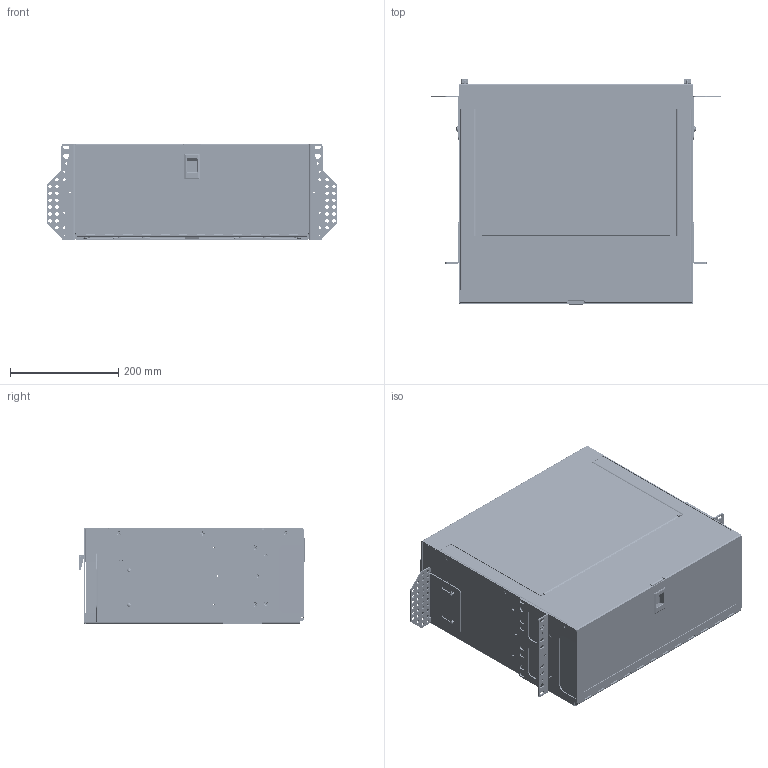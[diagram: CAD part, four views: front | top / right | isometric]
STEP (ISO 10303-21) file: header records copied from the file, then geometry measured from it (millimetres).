
FILE_DESCRIPTION(/* description */ ('STEP AP242','CAx-IF Rec.Pracs.---Representation and Presentation of Product Manufacturing Information (PMI)---4.0---2014-10-13','CAx-IF Rec.Pracs.---3D Tessellated Geometry---0.4---2014-09-14','2;1'),/* implementation_level */ '2;1');
FILE_NAME(/* name */ '6810f844c51c8011bc68051d',/* time_stamp */ '2025-04-29T16:03:20Z',/* author */ (''),/* organization */ (''),/* preprocessor_version */ 'ST-DEVELOPER v20',/* originating_system */ 'ONSHAPE BY PTC INC, 1.197',/* authorisation */ ' ');
FILE_SCHEMA (('AP242_MANAGED_MODEL_BASED_3D_ENGINEERING_MIM_LF { 1 0 10303 442 1 1 4 }'));
Products named in the file (94): AD-147 - 4RU Rack Mount Patch Panel; Pan head machine screw #6-32 x 0.25; 96640A334_NO THREADS_Black-Oxide 18-8 Stainless Steel Phillips Flat H
ead Screws; 96640A340_NO THREADS_Black-Oxide 18-8 Stainless Steel Phillips Flat H
ead Screws; Hex machine screw nut #4-40; 96640A059_NO THREADS_Black-Oxide 18-8 Stainless Steel Phillips Flat H
ead Screws; T-010; Strap; Pan head machine screw #6-32 x 0.375; PL-031; B-135; Hex machine screw nut #6-32; Part 1; PL-30; AP-BLANK-B <10>; Plunger - Mini Snap Latch_1; Blank LGX Footprint Plate; Grommet - Mini Snap Latch; Grommet - Mini Snap Latch_1; Plunger - Mini Snap Latch; B-143 <2>; PEM CLS-632-2  ; B-143; AP-BLANK-B <9>; AP-BLANK-B <11>; B-133 <2>; PEM CLS-440-2  ; B-133; B-133 <1>; Type A flat washer #6; Southco-A3-40-625-12 <1>; Southco-A3-40-625-12_A3_TORSION_SPRING_CLF; Southco-A3-40-625-12_a3_slide_40_625_clf; AP-BLANK-B <7>; T-011; B-132 <1>; B-134; AP-BLANK-B <3>; H-174 <1>; H-174 ...
Assembly tree (314 placements, depth 4):
  AD-147 - 4RU Rack Mount Patch Panel
    Pan head machine screw #6-32 x 0.25  x2
    96640A334_NO THREADS_Black-Oxide 18-8 Stainless Steel Phillips Flat H
ead Screws  x4
    96640A340_NO THREADS_Black-Oxide 18-8 Stainless Steel Phillips Flat H
ead Screws  x30
    Hex machine screw nut #4-40  x6
    96640A059_NO THREADS_Black-Oxide 18-8 Stainless Steel Phillips Flat H
ead Screws  x6
    T-010  x2
    Strap  x2
    Pan head machine screw #6-32 x 0.375  x4
    PL-031
    B-135  x2
    Hex machine screw nut #6-32  x7
    Part 1
    PL-30  x2
    AP-BLANK-B <10>
      Plunger - Mini Snap Latch_1
      Blank LGX Footprint Plate
      Grommet - Mini Snap Latch
      Grommet - Mini Snap Latch_1
      Plunger - Mini Snap Latch
    B-143 <2>
      PEM CLS-632-2    x3
      B-143
    AP-BLANK-B <9>
      Grommet - Mini Snap Latch
      Plunger - Mini Snap Latch
      Blank LGX Footprint Plate
      Grommet - Mini Snap Latch_1
      Plunger - Mini Snap Latch_1
    AP-BLANK-B <11>
      Plunger - Mini Snap Latch_1
      Grommet - Mini Snap Latch
      Blank LGX Footprint Plate
      Grommet - Mini Snap Latch_1
      Plunger - Mini Snap Latch
    B-133 <2>
      PEM CLS-440-2    x2
      B-133
    B-133 <1>
      PEM CLS-440-2    x2
      B-133
    Type A flat washer #6  x6
    Southco-A3-40-625-12 <1>
      Southco-A3-40-625-12_A3_TORSION_SPRING_CLF
      Southco-A3-40-625-12_a3_slide_40_625_clf
    AP-BLANK-B <7>
      Blank LGX Footprint Plate
      Grommet - Mini Snap Latch
      Plunger - Mini Snap Latch_1
      Plunger - Mini Snap Latch
      Grommet - Mini Snap Latch_1
    T-011  x2
    B-132 <1>
      Part 1
      PEM CLS-632-2    x2
    B-134  x2
    AP-BLANK-B <3>
      Grommet - Mini Snap Latch
      Plunger - Mini Snap Latch_1
      Plunger - Mini Snap Latch
Bounding box: 537.46 x 416.51 x 176.28 mm (x, y, z)
Volume: 2548394.8 mm3; surface area: 3222412.9 mm2
Topology: 273 solids, 273 shells, 14087 faces, 37752 edges, 24579 vertices
Faces by surface type: plane 9370, cylinder 3045, cone 1034, bspline 330, torus 276, sphere 32
Full cylindrical faces by diameter (mm): 0.813 x3, 1.587 x2, 1.665 x2, 1.702 x2, 1.786 x5, 1.956 x4, 1.981 x2, 2.037 x24, 2.108 x2, 2.156 x10, 2.184 x8, 2.642 x47, 2.647 x4, 2.845 x10, 3.048 x7, 3.175 x5, 3.251 x10, 3.264 x10, 3.454 x2, 3.48 x7, 3.505 x57, 3.618 x5, 3.81 x72, 3.815 x5, 3.937 x24, 3.962 x6, 4.064 x144, 4.071 x5, 4.191 x4, 4.216 x4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
Entity records: 94961 total; most frequent: CARTESIAN_POINT 20085, DIRECTION 14940, ORIENTED_EDGE 14064, EDGE_CURVE 7032, AXIS2_PLACEMENT_3D 5201, VERTEX_POINT 4715, LINE 4538, VECTOR 4538
